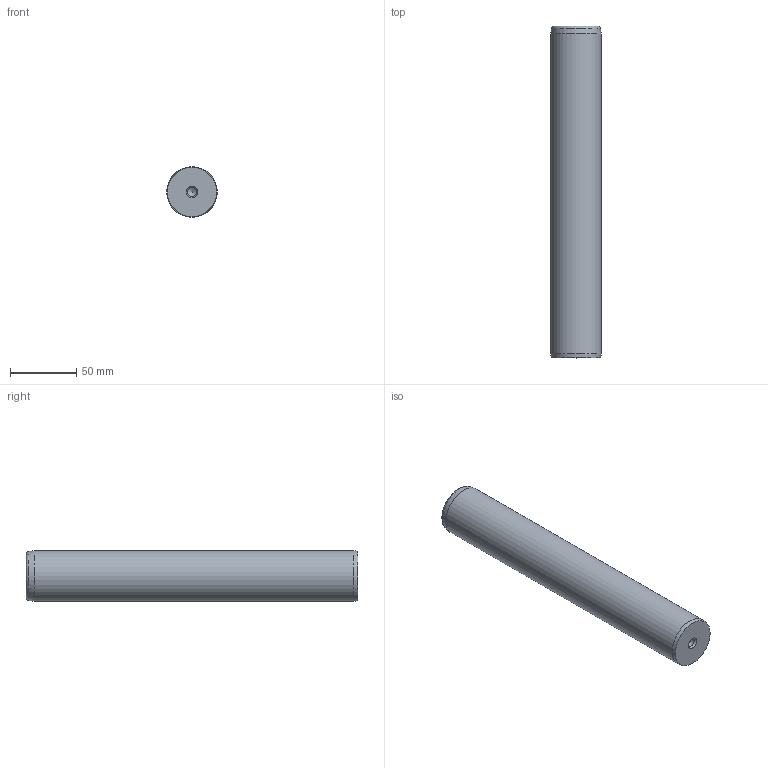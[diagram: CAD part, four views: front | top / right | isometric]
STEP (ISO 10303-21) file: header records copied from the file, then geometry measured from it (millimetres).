
FILE_DESCRIPTION( ( 'STEP AP203' ), '1' );
FILE_NAME( 'D:/Cuma/D14/D14_38250.step', '2003-01-18T23:19:02', ( ' ' ), ( ' ' ), 'XStep 1.0', ' ', ' ' );
FILE_SCHEMA( ( 'CONFIG_CONTROL_DESIGN' ) );
Length unit declared in the file: metre
Products named in the file (1): 1
Bounding box: 38 x 250 x 38 mm (x, y, z)
Volume: 281121.9 mm3; surface area: 32983.7 mm2
Topology: 1 solids, 1 shells, 14 faces, 29 edges, 17 vertices
Faces by surface type: cone 6, cylinder 5, plane 2, torus 1
Full cylindrical faces by diameter (mm): 6.75 x4, 38 x1
Entity records: 327 total; most frequent: DIRECTION 56, CARTESIAN_POINT 43, AXIS2_PLACEMENT_3D 28, EDGE_LOOP 26, ORIENTED_EDGE 26, FACE_OUTER_BOUND 20, VERTEX_POINT 15, ADVANCED_FACE 14
